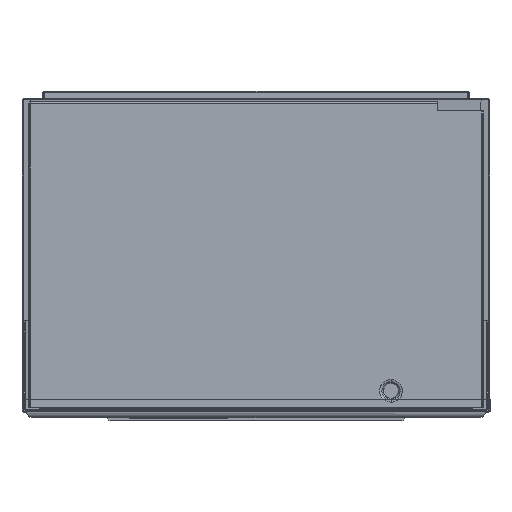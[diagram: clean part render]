
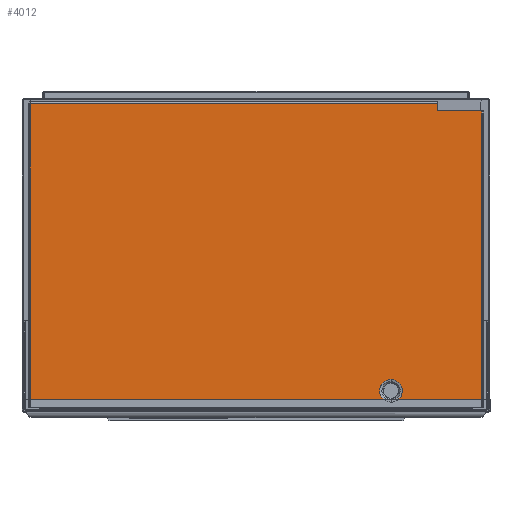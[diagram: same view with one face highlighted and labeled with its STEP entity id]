
A CAD part, front view. The second image highlights one B-rep face of the part: STEP entity #4012.
In plain terms, the highlighted planar face has unit normal (0, -1, 0).
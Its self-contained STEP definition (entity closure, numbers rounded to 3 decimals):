
#1221=FACE_BOUND('',#11016,.T.);
#4012=ADVANCED_FACE('',(#6949,#1221),#52990,.T.);
#6949=FACE_OUTER_BOUND('',#11015,.T.);
#11015=EDGE_LOOP('',(#27370,#27371,#27372,#27373,#27374,#27375,#27376,#27377));
#11016=EDGE_LOOP('',(#27378,#27379));
#27370=ORIENTED_EDGE('',*,*,#36113,.F.);
#27371=ORIENTED_EDGE('',*,*,#36114,.F.);
#27372=ORIENTED_EDGE('',*,*,#36115,.F.);
#27373=ORIENTED_EDGE('',*,*,#36116,.F.);
#27374=ORIENTED_EDGE('',*,*,#36117,.F.);
#27375=ORIENTED_EDGE('',*,*,#36118,.F.);
#27376=ORIENTED_EDGE('',*,*,#36119,.F.);
#27377=ORIENTED_EDGE('',*,*,#36112,.F.);
#27378=ORIENTED_EDGE('',*,*,#36120,.F.);
#27379=ORIENTED_EDGE('',*,*,#36121,.F.);
#36112=EDGE_CURVE('',#50201,#50202,#44538,.T.);
#36113=EDGE_CURVE('',#50203,#50201,#44539,.T.);
#36114=EDGE_CURVE('',#50204,#50203,#44540,.T.);
#36115=EDGE_CURVE('',#50205,#50204,#44541,.T.);
#36116=EDGE_CURVE('',#50206,#50205,#44542,.T.);
#36117=EDGE_CURVE('',#50207,#50206,#44543,.T.);
#36118=EDGE_CURVE('',#50208,#50207,#44544,.T.);
#36119=EDGE_CURVE('',#50202,#50208,#44545,.T.);
#36120=EDGE_CURVE('',#50209,#50210,#44546,.T.);
#36121=EDGE_CURVE('',#50210,#50209,#44547,.T.);
#44538=B_SPLINE_CURVE_WITH_KNOTS('',3,(#92319,#92320,#92321,#92322),
 .UNSPECIFIED.,.F.,.F.,(4,4),(-7.75,0.),.UNSPECIFIED.);
#44539=B_SPLINE_CURVE_WITH_KNOTS('',3,(#92323,#92324,#92325,#92326),
 .UNSPECIFIED.,.F.,.F.,(4,4),(-438.75,0.),.UNSPECIFIED.);
#44540=B_SPLINE_CURVE_WITH_KNOTS('',3,(#92327,#92328,#92329,#92330),
 .UNSPECIFIED.,.F.,.F.,(4,4),(-327.5,0.),.UNSPECIFIED.);
#44541=B_SPLINE_CURVE_WITH_KNOTS('',3,(#92331,#92332,#92333,#92334),
 .UNSPECIFIED.,.F.,.F.,(4,4),(-9.75,0.),.UNSPECIFIED.);
#44542=B_SPLINE_CURVE_WITH_KNOTS('',3,(#92335,#92336,#92337,#92338),
 .UNSPECIFIED.,.F.,.F.,(4,4),(-467.,0.),.UNSPECIFIED.);
#44543=B_SPLINE_CURVE_WITH_KNOTS('',3,(#92339,#92340,#92341,#92342),
 .UNSPECIFIED.,.F.,.F.,(4,4),(-9.75,0.),.UNSPECIFIED.);
#44544=B_SPLINE_CURVE_WITH_KNOTS('',3,(#92343,#92344,#92345,#92346),
 .UNSPECIFIED.,.F.,.F.,(4,4),(-319.75,0.),.UNSPECIFIED.);
#44545=B_SPLINE_CURVE_WITH_KNOTS('',3,(#92347,#92348,#92349,#92350),
 .UNSPECIFIED.,.F.,.F.,(4,4),(-47.75,0.),.UNSPECIFIED.);
#44546=B_SPLINE_CURVE_WITH_KNOTS('',3,(#92351,#92352,#92353,#92354,#92355,
#92356,#92357,#92358,#92359,#92360,#92361,#92362,#92363,#92364,#92365,#92366,
#92367,#92368),.UNSPECIFIED.,.F.,.F.,(4,2,2,2,2,2,2,2,4),(-38.707,
-33.869,-29.031,-24.192,-19.354,
-14.515,-9.677,-4.838,0.),.UNSPECIFIED.);
#44547=B_SPLINE_CURVE_WITH_KNOTS('',3,(#92369,#92370,#92371,#92372,#92373,
#92374,#92375,#92376,#92377,#92378,#92379,#92380,#92381,#92382,#92383,#92384,
#92385,#92386),.UNSPECIFIED.,.F.,.F.,(4,2,2,2,2,2,2,2,4),(-38.707,
-33.869,-29.031,-24.192,-19.354,
-14.515,-9.677,-4.838,0.),.UNSPECIFIED.);
#50201=VERTEX_POINT('',#92235);
#50202=VERTEX_POINT('',#92236);
#50203=VERTEX_POINT('',#92237);
#50204=VERTEX_POINT('',#92238);
#50205=VERTEX_POINT('',#92239);
#50206=VERTEX_POINT('',#92240);
#50207=VERTEX_POINT('',#92241);
#50208=VERTEX_POINT('',#92242);
#50209=VERTEX_POINT('',#92243);
#50210=VERTEX_POINT('',#92244);
#52990=PLANE('',#56048);
#56048=AXIS2_PLACEMENT_3D('',#91453,#58885,$);
#58885=DIRECTION('',(0.,-1.,0.));
#91453=CARTESIAN_POINT('',(-351.053,-551.195,256.922));
#92235=CARTESIAN_POINT('',(136.347,-551.195,224.172));
#92236=CARTESIAN_POINT('',(136.347,-551.195,216.422));
#92237=CARTESIAN_POINT('',(-302.403,-551.195,224.172));
#92238=CARTESIAN_POINT('',(-302.403,-551.195,-103.328));
#92239=CARTESIAN_POINT('',(-292.653,-551.195,-103.328));
#92240=CARTESIAN_POINT('',(174.347,-551.195,-103.328));
#92241=CARTESIAN_POINT('',(184.097,-551.195,-103.328));
#92242=CARTESIAN_POINT('',(184.097,-551.195,216.422));
#92243=CARTESIAN_POINT('',(86.347,-551.195,-72.836));
#92244=CARTESIAN_POINT('',(86.347,-551.195,-97.321));
#92319=CARTESIAN_POINT('',(136.347,-551.195,224.172));
#92320=CARTESIAN_POINT('',(136.347,-551.195,221.588));
#92321=CARTESIAN_POINT('',(136.347,-551.195,219.005));
#92322=CARTESIAN_POINT('',(136.347,-551.195,216.422));
#92323=CARTESIAN_POINT('',(-302.403,-551.195,224.172));
#92324=CARTESIAN_POINT('',(-156.153,-551.195,224.172));
#92325=CARTESIAN_POINT('',(-9.903,-551.195,224.172));
#92326=CARTESIAN_POINT('',(136.347,-551.195,224.172));
#92327=CARTESIAN_POINT('',(-302.403,-551.195,-103.328));
#92328=CARTESIAN_POINT('',(-302.403,-551.195,5.838));
#92329=CARTESIAN_POINT('',(-302.403,-551.195,115.005));
#92330=CARTESIAN_POINT('',(-302.403,-551.195,224.172));
#92331=CARTESIAN_POINT('',(-292.653,-551.195,-103.328));
#92332=CARTESIAN_POINT('',(-295.903,-551.195,-103.328));
#92333=CARTESIAN_POINT('',(-299.153,-551.195,-103.328));
#92334=CARTESIAN_POINT('',(-302.403,-551.195,-103.328));
#92335=CARTESIAN_POINT('',(174.347,-551.195,-103.328));
#92336=CARTESIAN_POINT('',(18.681,-551.195,-103.328));
#92337=CARTESIAN_POINT('',(-136.986,-551.195,-103.328));
#92338=CARTESIAN_POINT('',(-292.653,-551.195,-103.328));
#92339=CARTESIAN_POINT('',(184.097,-551.195,-103.328));
#92340=CARTESIAN_POINT('',(180.847,-551.195,-103.328));
#92341=CARTESIAN_POINT('',(177.597,-551.195,-103.328));
#92342=CARTESIAN_POINT('',(174.347,-551.195,-103.328));
#92343=CARTESIAN_POINT('',(184.097,-551.195,216.422));
#92344=CARTESIAN_POINT('',(184.097,-551.195,109.838));
#92345=CARTESIAN_POINT('',(184.097,-551.195,3.255));
#92346=CARTESIAN_POINT('',(184.097,-551.195,-103.328));
#92347=CARTESIAN_POINT('',(136.347,-551.195,216.422));
#92348=CARTESIAN_POINT('',(152.264,-551.195,216.422));
#92349=CARTESIAN_POINT('',(168.181,-551.195,216.422));
#92350=CARTESIAN_POINT('',(184.097,-551.195,216.422));
#92351=CARTESIAN_POINT('',(86.347,-551.195,-72.836));
#92352=CARTESIAN_POINT('',(84.745,-551.195,-72.836));
#92353=CARTESIAN_POINT('',(83.143,-551.195,-73.154));
#92354=CARTESIAN_POINT('',(80.182,-551.195,-74.381));
#92355=CARTESIAN_POINT('',(78.824,-551.195,-75.288));
#92356=CARTESIAN_POINT('',(76.557,-551.195,-77.555));
#92357=CARTESIAN_POINT('',(75.65,-551.195,-78.913));
#92358=CARTESIAN_POINT('',(74.423,-551.195,-81.874));
#92359=CARTESIAN_POINT('',(74.105,-551.195,-83.476));
#92360=CARTESIAN_POINT('',(74.105,-551.195,-86.681));
#92361=CARTESIAN_POINT('',(74.423,-551.195,-88.283));
#92362=CARTESIAN_POINT('',(75.65,-551.195,-91.244));
#92363=CARTESIAN_POINT('',(76.557,-551.195,-92.602));
#92364=CARTESIAN_POINT('',(78.824,-551.195,-94.868));
#92365=CARTESIAN_POINT('',(80.182,-551.195,-95.776));
#92366=CARTESIAN_POINT('',(83.143,-551.195,-97.002));
#92367=CARTESIAN_POINT('',(84.745,-551.195,-97.321));
#92368=CARTESIAN_POINT('',(86.347,-551.195,-97.321));
#92369=CARTESIAN_POINT('',(86.347,-551.195,-97.321));
#92370=CARTESIAN_POINT('',(87.95,-551.195,-97.321));
#92371=CARTESIAN_POINT('',(89.552,-551.195,-97.002));
#92372=CARTESIAN_POINT('',(92.513,-551.195,-95.776));
#92373=CARTESIAN_POINT('',(93.871,-551.195,-94.868));
#92374=CARTESIAN_POINT('',(96.137,-551.195,-92.602));
#92375=CARTESIAN_POINT('',(97.045,-551.195,-91.244));
#92376=CARTESIAN_POINT('',(98.271,-551.195,-88.283));
#92377=CARTESIAN_POINT('',(98.59,-551.195,-86.681));
#92378=CARTESIAN_POINT('',(98.59,-551.195,-83.476));
#92379=CARTESIAN_POINT('',(98.271,-551.195,-81.874));
#92380=CARTESIAN_POINT('',(97.045,-551.195,-78.913));
#92381=CARTESIAN_POINT('',(96.137,-551.195,-77.555));
#92382=CARTESIAN_POINT('',(93.871,-551.195,-75.288));
#92383=CARTESIAN_POINT('',(92.513,-551.195,-74.381));
#92384=CARTESIAN_POINT('',(89.552,-551.195,-73.154));
#92385=CARTESIAN_POINT('',(87.95,-551.195,-72.836));
#92386=CARTESIAN_POINT('',(86.347,-551.195,-72.836));
